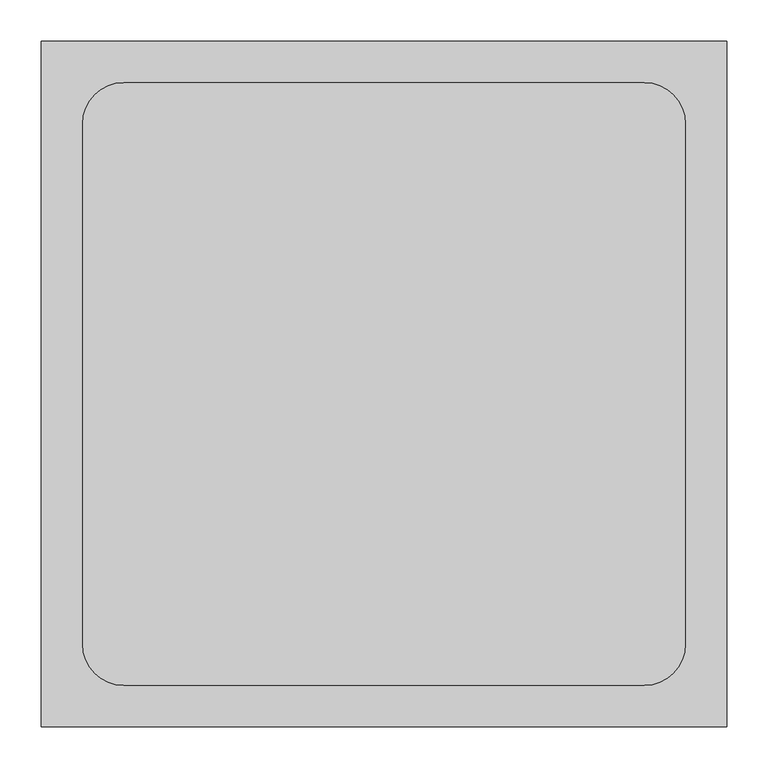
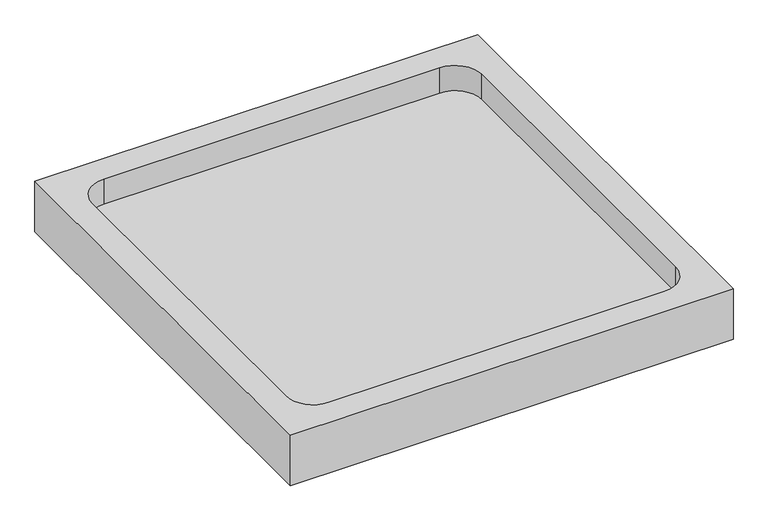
"""IFC4 building model written with IfcOpenShell, lengths in millimetres: flow terminal geometry, Sanitary_Shower-Trays_Zeppelin-Rental-GmbH : Sanitary_Shower-Trays_Zeppelin-Rental-GmbH."""

from ifc_helpers import new_model, si_unit, frame, origin, place, context, project, spatial, polyline, circle_curve, source, transform, mapped, element, save
from ifc_brep_helpers import plane_surface, revolved_surface, advanced_brep


def flow_terminal_a5e4b3cb(model_context):
    return source(origin(), model_context, "Body", "AdvancedBrep", [
        advanced_brep(
        [(415.0, 415.0, 100.0), (-415.0, 415.0, 100.0), (-415.0, -415.0, 100.0), (415.0, -415.0, 100.0), (-365.0, 315.0, 100.0), (-315.0, 365.0, 100.0), (315.0, 365.0, 100.0), (365.0, 315.0, 100.0), (365.0, -315.0, 100.0), (315.0, -365.0, 100.0), (-315.0, -365.0, 100.0), (-365.0, -315.0, 100.0), (415.0, 415.0, 0.0), (415.0, -415.0, 0.0), (-415.0, -415.0, 0.0), (-415.0, 415.0, 0.0), (-315.0, 365.0, 50.0), (-365.0, 315.0, 50.0), (-365.0, -315.0, 50.0), (-315.0, -365.0, 50.0), (315.0, -365.0, 50.0), (365.0, -315.0, 50.0), (365.0, 315.0, 50.0), (315.0, 365.0, 50.0)],
        [
            (0, 1),
            (1, 2),
            (2, 3),
            (3, 0),
            (4, 5, circle_curve(frame((-315.0, 315.0, 100.0), z_axis=(0.0, 0.0, -1.0), x_axis=(1.0, 0.0, 0.0)), 50.0)),
            (5, 6),
            (6, 7, circle_curve(frame((315.0, 315.0, 100.0), z_axis=(0.0, 0.0, -1.0), x_axis=(1.0, 0.0, 0.0)), 50.0)),
            (7, 8),
            (8, 9, circle_curve(frame((315.0, -315.0, 100.0), z_axis=(0.0, 0.0, -1.0), x_axis=(1.0, 0.0, 0.0)), 50.0)),
            (9, 10),
            (10, 11, circle_curve(frame((-315.0, -315.0, 100.0), z_axis=(0.0, 0.0, -1.0), x_axis=(1.0, 0.0, 0.0)), 50.0)),
            (11, 4),
            (12, 13),
            (13, 14),
            (14, 15),
            (15, 12),
            (0, 12),
            (15, 1),
            (14, 2),
            (13, 3),
            (16, 17, circle_curve(frame((-315.0, 315.0, 50.0), z_axis=(0.0, 0.0, 1.0), x_axis=(1.0, 0.0, 0.0)), 50.0)),
            (17, 18),
            (18, 19, circle_curve(frame((-315.0, -315.0, 50.0), z_axis=(0.0, 0.0, 1.0), x_axis=(1.0, 0.0, 0.0)), 50.0)),
            (19, 20),
            (20, 21, circle_curve(frame((315.0, -315.0, 50.0), z_axis=(0.0, 0.0, 1.0), x_axis=(1.0, 0.0, 0.0)), 50.0)),
            (21, 22),
            (22, 23, circle_curve(frame((315.0, 315.0, 50.0), z_axis=(0.0, 0.0, 1.0), x_axis=(1.0, 0.0, 0.0)), 50.0)),
            (23, 16),
            (16, 5),
            (4, 17),
            (11, 18),
            (10, 19),
            (9, 20),
            (8, 21),
            (7, 22),
            (6, 23),
        ],
        [
            plane_surface(frame((-224.6258269, 415.0, 100.0), z_axis=(0.0, 0.0, 1.0), x_axis=(-1.0, 0.0, 0.0))),
            plane_surface(frame((-224.6258269, 415.0, 0.0), z_axis=(0.0, 0.0, -1.0), x_axis=(1.0, 0.0, 0.0))),
            plane_surface(frame((415.0, 415.0, 100.0), z_axis=(0.0, 1.0, 0.0), x_axis=(0.0, 0.0, -1.0))),
            plane_surface(frame((-415.0, 415.0, 100.0), z_axis=(-1.0, 0.0, 0.0), x_axis=(0.0, 0.0, -1.0))),
            plane_surface(frame((-415.0, -415.0, 100.0), z_axis=(0.0, -1.0, 0.0), x_axis=(0.0, 0.0, -1.0))),
            plane_surface(frame((415.0, -415.0, 100.0), z_axis=(1.0, 0.0, 0.0), x_axis=(0.0, 0.0, -1.0))),
            plane_surface(frame((-265.0, 315.0, 50.0), z_axis=(0.0, 0.0, 1.0), x_axis=(0.0, -1.0, 0.0))),
            revolved_surface(polyline([(-265.0, 315.0, 100.0), (-265.0, 315.0, 50.0)]), (-315.0, 315.0, 50.0), (0.0, 0.0, 1.0)),
            plane_surface(frame((-365.0, 315.0, 127.5962777), z_axis=(1.0, 0.0, 0.0), x_axis=(0.0, 0.0, -1.0))),
            revolved_surface(polyline([(-265.0, -315.0, 100.0), (-265.0, -315.0, 50.0)]), (-315.0, -315.0, 50.0), (0.0, 0.0, 1.0)),
            plane_surface(frame((-315.0, -365.0, 127.5962777), z_axis=(0.0, 1.0, 0.0), x_axis=(0.0, 0.0, -1.0))),
            revolved_surface(polyline([(365.0, -315.0, 100.0), (365.0, -315.0, 50.0)]), (315.0, -315.0, 50.0), (0.0, 0.0, 1.0)),
            plane_surface(frame((365.0, -315.0, 127.5962777), z_axis=(-1.0, 0.0, 0.0), x_axis=(0.0, 0.0, -1.0))),
            revolved_surface(polyline([(365.0, 315.0, 100.0), (365.0, 315.0, 50.0)]), (315.0, 315.0, 50.0), (0.0, 0.0, 1.0)),
            plane_surface(frame((315.0, 365.0, 127.5962777), z_axis=(0.0, -1.0, 0.0), x_axis=(0.0, 0.0, -1.0))),
        ],
        [
            (0, [[1, 2, 3, 4], [5, 6, 7, 8, 9, 10, 11, 12]]),
            (1, [[13, 14, 15, 16]]),
            (2, [[-1, 17, -16, 18]]),
            (3, [[-2, -18, -15, 19]]),
            (4, [[-3, -19, -14, 20]]),
            (5, [[-4, -20, -13, -17]]),
            (6, [[21, 22, 23, 24, 25, 26, 27, 28]]),
            (7, [[-21, 29, -5, 30]]),
            (8, [[-22, -30, -12, 31]]),
            (9, [[-23, -31, -11, 32]]),
            (10, [[-24, -32, -10, 33]]),
            (11, [[-25, -33, -9, 34]]),
            (12, [[-26, -34, -8, 35]]),
            (13, [[-27, -35, -7, 36]]),
            (14, [[-28, -36, -6, -29]]),
        ],
    ),
    ])


if __name__ == "__main__":
    model = new_model("IFC4")
    model_context = context("Model", 3, world=origin())
    ifc_project = project(units=[si_unit("LENGTHUNIT", "METRE", prefix="MILLI")], contexts=[model_context])
    site = spatial("IfcSite", under=ifc_project)
    building = spatial("IfcBuilding", under=site)
    placement = place(None, origin())
    flow_terminal_shape = flow_terminal_a5e4b3cb(model_context)
    element("IfcFlowTerminal", 1, ObjectType="Sanitary_Shower-Trays_Zeppelin-Rental-GmbH : Sanitary_Shower-Trays_Zeppelin-Rental-GmbH", at=placement, inside=building, context=model_context, shape_type="MappedRepresentation", body=[
        mapped(flow_terminal_shape, transform((0.0, 0.0, 0.0), x_axis=(1.0, 0.0, 0.0), y_axis=(0.0, 1.0, 0.0), z_axis=(0.0, 0.0, 1.0))),
    ])
    save(model, "model.ifc")
